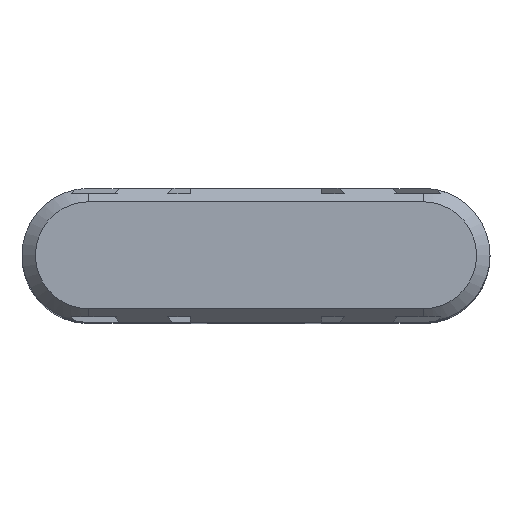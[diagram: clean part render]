
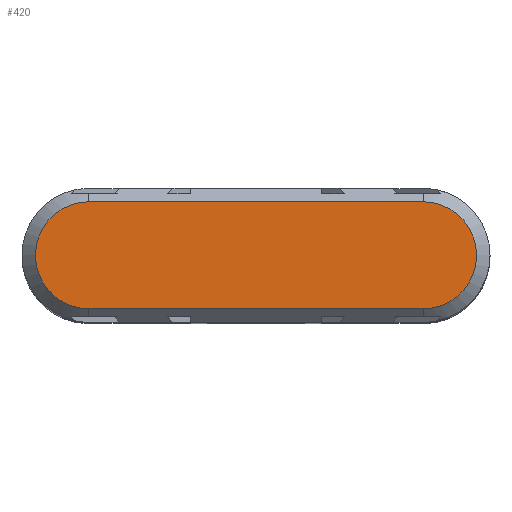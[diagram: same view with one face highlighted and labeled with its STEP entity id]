
A CAD part, top view. The second image highlights one B-rep face of the part: STEP entity #420.
In plain terms, the highlighted planar face has unit normal (0, 0, 1).
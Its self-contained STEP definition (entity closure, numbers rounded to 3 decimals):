
#10=CARTESIAN_POINT('',(13.869,4.044,-37.2));
#20=DIRECTION('',(0.,0.,1.));
#30=DIRECTION('',(1.,0.,0.));
#40=AXIS2_PLACEMENT_3D('',#10,#20,#30);
#50=PLANE('',#40);
#60=CARTESIAN_POINT('',(13.869,2.044,-37.2));
#70=DIRECTION('',(1.,0.,0.));
#80=VECTOR('',#70,1.);
#90=LINE('',#60,#80);
#100=CARTESIAN_POINT('',(7.619,2.044,-37.2));
#110=VERTEX_POINT('',#100);
#120=CARTESIAN_POINT('',(20.119,2.044,-37.2));
#130=VERTEX_POINT('',#120);
#140=EDGE_CURVE('',#110,#130,#90,.T.);
#150=ORIENTED_EDGE('',*,*,#140,.T.);
#160=CARTESIAN_POINT('',(7.619,4.044,-37.2));
#170=DIRECTION('',(0.,0.,1.));
#180=DIRECTION('',(1.,0.,0.));
#190=AXIS2_PLACEMENT_3D('',#160,#170,#180);
#200=CIRCLE('',#190,2.);
#210=CARTESIAN_POINT('',(7.619,6.044,-37.2));
#220=VERTEX_POINT('',#210);
#230=EDGE_CURVE('',#220,#110,#200,.T.);
#240=ORIENTED_EDGE('',*,*,#230,.T.);
#250=CARTESIAN_POINT('',(13.869,6.044,-37.2));
#260=DIRECTION('',(-1.,0.,0.));
#270=VECTOR('',#260,1.);
#280=LINE('',#250,#270);
#290=CARTESIAN_POINT('',(20.119,6.044,-37.2));
#300=VERTEX_POINT('',#290);
#310=EDGE_CURVE('',#300,#220,#280,.T.);
#320=ORIENTED_EDGE('',*,*,#310,.T.);
#330=CARTESIAN_POINT('',(20.119,4.044,-37.2));
#340=DIRECTION('',(0.,0.,1.));
#350=DIRECTION('',(1.,0.,0.));
#360=AXIS2_PLACEMENT_3D('',#330,#340,#350);
#370=CIRCLE('',#360,2.);
#380=EDGE_CURVE('',#130,#300,#370,.T.);
#390=ORIENTED_EDGE('',*,*,#380,.T.);
#400=EDGE_LOOP('',(#390,#320,#240,#150));
#410=FACE_OUTER_BOUND('',#400,.T.);
#420=ADVANCED_FACE('',(#410),#50,.T.);
